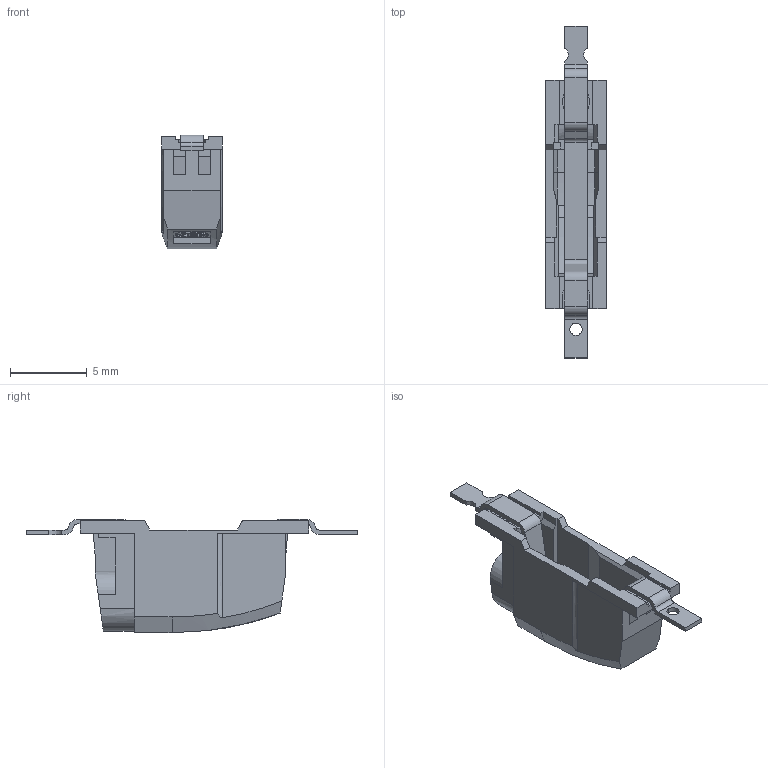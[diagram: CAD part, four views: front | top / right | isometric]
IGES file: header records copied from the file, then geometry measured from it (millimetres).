
Global section: file name: C:\CoreTechnologie\3D-in/01VYD01Y0U.igs; native system: CT CoreTechnologie 3D Evolution; preprocessor: 2006; date: 1181110.085102; units: millimetre
Bounding box: 3.95 x 21.66 x 7.4 mm (x, y, z)
Volume: 156.2 mm3; surface area: 599.4 mm2
Topology: 1 solids, 1 shells, 291 faces, 846 edges, 561 vertices
Faces by surface type: plane 216, revolution 64, bspline 11
